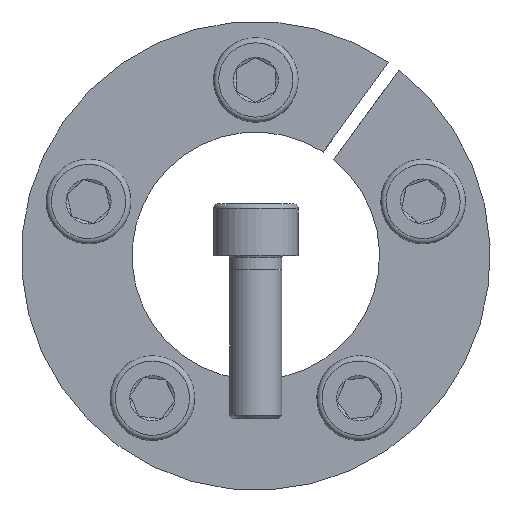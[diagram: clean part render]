
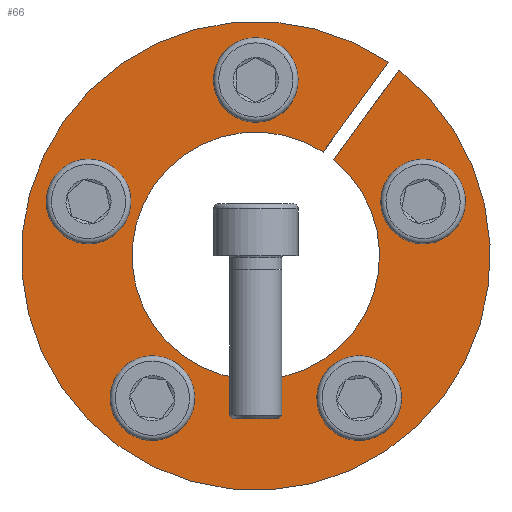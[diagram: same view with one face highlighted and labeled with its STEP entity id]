
A CAD part, front view. The second image highlights one B-rep face of the part: STEP entity #66.
In plain terms, the highlighted planar face has unit normal (0, -1, 0).
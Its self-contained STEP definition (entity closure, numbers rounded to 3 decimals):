
#66 = ADVANCED_FACE( '', ( #139, #140, #141, #142, #143, #144 ), #145, .F. );
#139 = FACE_OUTER_BOUND( '', #259, .T. );
#140 = FACE_BOUND( '', #260, .T. );
#141 = FACE_BOUND( '', #261, .T. );
#142 = FACE_BOUND( '', #262, .T. );
#143 = FACE_BOUND( '', #263, .T. );
#144 = FACE_BOUND( '', #264, .T. );
#145 = PLANE( '', #265 );
#259 = EDGE_LOOP( '', ( #410, #411, #412, #413 ) );
#260 = EDGE_LOOP( '', ( #414 ) );
#261 = EDGE_LOOP( '', ( #415 ) );
#262 = EDGE_LOOP( '', ( #416 ) );
#263 = EDGE_LOOP( '', ( #417 ) );
#264 = EDGE_LOOP( '', ( #418 ) );
#265 = AXIS2_PLACEMENT_3D( '', #419, #420, #421 );
#410 = ORIENTED_EDGE( '', *, *, #646, .T. );
#411 = ORIENTED_EDGE( '', *, *, #656, .T. );
#412 = ORIENTED_EDGE( '', *, *, #657, .T. );
#413 = ORIENTED_EDGE( '', *, *, #658, .F. );
#414 = ORIENTED_EDGE( '', *, *, #659, .F. );
#415 = ORIENTED_EDGE( '', *, *, #660, .F. );
#416 = ORIENTED_EDGE( '', *, *, #661, .F. );
#417 = ORIENTED_EDGE( '', *, *, #662, .F. );
#418 = ORIENTED_EDGE( '', *, *, #663, .F. );
#419 = CARTESIAN_POINT( '', ( 0., 0., 36. ) );
#420 = DIRECTION( '', ( 0., 1., 0. ) );
#421 = DIRECTION( '', ( 1., 0., 0. ) );
#646 = EDGE_CURVE( '', #781, #779, #782, .T. );
#656 = EDGE_CURVE( '', #779, #799, #800, .T. );
#657 = EDGE_CURVE( '', #799, #801, #802, .T. );
#658 = EDGE_CURVE( '', #781, #801, #803, .T. );
#659 = EDGE_CURVE( '', #804, #804, #805, .T. );
#660 = EDGE_CURVE( '', #806, #806, #807, .T. );
#661 = EDGE_CURVE( '', #808, #808, #809, .T. );
#662 = EDGE_CURVE( '', #810, #810, #811, .T. );
#663 = EDGE_CURVE( '', #812, #812, #813, .T. );
#779 = VERTEX_POINT( '', #1036 );
#781 = VERTEX_POINT( '', #1039 );
#782 = LINE( '', #1040, #1041 );
#799 = VERTEX_POINT( '', #1068 );
#800 = CIRCLE( '', #1069, 36. );
#801 = VERTEX_POINT( '', #1070 );
#802 = LINE( '', #1071, #1072 );
#803 = CIRCLE( '', #1073, 19. );
#804 = VERTEX_POINT( '', #1074 );
#805 = CIRCLE( '', #1075, 4.5 );
#806 = VERTEX_POINT( '', #1076 );
#807 = CIRCLE( '', #1077, 4.5 );
#808 = VERTEX_POINT( '', #1078 );
#809 = CIRCLE( '', #1079, 4.5 );
#810 = VERTEX_POINT( '', #1080 );
#811 = CIRCLE( '', #1081, 4.5 );
#812 = VERTEX_POINT( '', #1082 );
#813 = CIRCLE( '', #1083, 4.5 );
#1036 = CARTESIAN_POINT( '', ( 20.343, 0., 29.701 ) );
#1039 = CARTESIAN_POINT( '', ( 10.343, 0., 15.938 ) );
#1040 = CARTESIAN_POINT( '', ( 10.343, 0., 15.938 ) );
#1041 = VECTOR( '', #1206, 1000. );
#1068 = CARTESIAN_POINT( '', ( 21.961, 0., 28.526 ) );
#1069 = AXIS2_PLACEMENT_3D( '', #1214, #1215, #1216 );
#1070 = CARTESIAN_POINT( '', ( 11.961, 0., 14.762 ) );
#1071 = CARTESIAN_POINT( '', ( 21.969, 0., 28.537 ) );
#1072 = VECTOR( '', #1217, 1000. );
#1073 = AXIS2_PLACEMENT_3D( '', #1218, #1219, #1220 );
#1074 = CARTESIAN_POINT( '', ( 4.5, 0., 27. ) );
#1075 = AXIS2_PLACEMENT_3D( '', #1221, #1222, #1223 );
#1076 = CARTESIAN_POINT( '', ( 27.069, 0., 4.064 ) );
#1077 = AXIS2_PLACEMENT_3D( '', #1224, #1225, #1226 );
#1078 = CARTESIAN_POINT( '', ( 12.23, 0., -24.488 ) );
#1079 = AXIS2_PLACEMENT_3D( '', #1227, #1228, #1229 );
#1080 = CARTESIAN_POINT( '', ( -19.511, 0., -19.198 ) );
#1081 = AXIS2_PLACEMENT_3D( '', #1230, #1231, #1232 );
#1082 = CARTESIAN_POINT( '', ( -24.288, 0., 12.623 ) );
#1083 = AXIS2_PLACEMENT_3D( '', #1233, #1234, #1235 );
#1206 = DIRECTION( '', ( 0.588, 0., 0.809 ) );
#1214 = CARTESIAN_POINT( '', ( 0., 0., 0. ) );
#1215 = DIRECTION( '', ( 0., -1., 0. ) );
#1216 = DIRECTION( '', ( 0., 0., -1. ) );
#1217 = DIRECTION( '', ( -0.588, 0., -0.809 ) );
#1218 = CARTESIAN_POINT( '', ( 0., 0., 0. ) );
#1219 = DIRECTION( '', ( 0., -1., 0. ) );
#1220 = DIRECTION( '', ( 0., 0., -1. ) );
#1221 = CARTESIAN_POINT( '', ( 0., 0., 27. ) );
#1222 = DIRECTION( '', ( 0., -1., 0. ) );
#1223 = DIRECTION( '', ( 1., 0., 0. ) );
#1224 = CARTESIAN_POINT( '', ( 25.679, 0., 8.343 ) );
#1225 = DIRECTION( '', ( 0., -1., 0. ) );
#1226 = DIRECTION( '', ( 0.309, 0., -0.951 ) );
#1227 = CARTESIAN_POINT( '', ( 15.87, 0., -21.843 ) );
#1228 = DIRECTION( '', ( 0., -1., 0. ) );
#1229 = DIRECTION( '', ( -0.809, 0., -0.588 ) );
#1230 = CARTESIAN_POINT( '', ( -15.87, 0., -21.843 ) );
#1231 = DIRECTION( '', ( 0., -1., 0. ) );
#1232 = DIRECTION( '', ( -0.809, 0., 0.588 ) );
#1233 = CARTESIAN_POINT( '', ( -25.679, 0., 8.343 ) );
#1234 = DIRECTION( '', ( 0., -1., 0. ) );
#1235 = DIRECTION( '', ( 0.309, 0., 0.951 ) );
